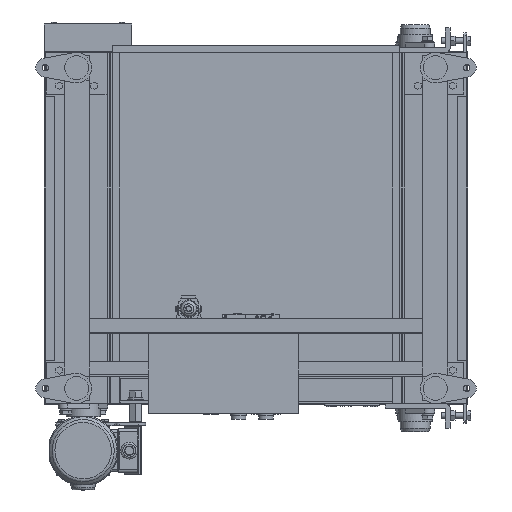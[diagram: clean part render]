
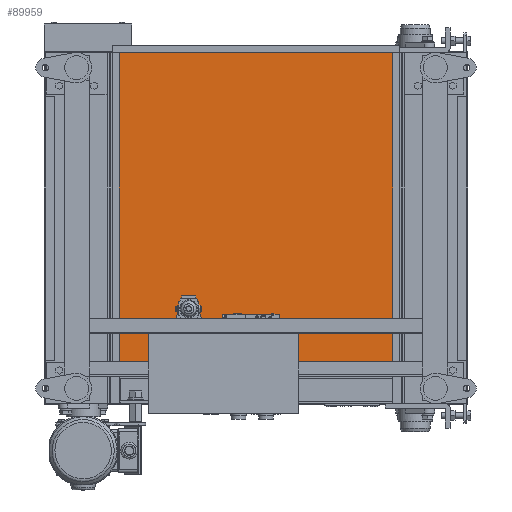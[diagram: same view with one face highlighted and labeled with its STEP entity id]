
A CAD part, front view. The second image highlights one B-rep face of the part: STEP entity #89959.
In plain terms, the highlighted planar face has unit normal (0, -1, 0).
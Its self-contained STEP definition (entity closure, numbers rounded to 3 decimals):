
#905 = ORIENTED_EDGE ( 'NONE', *, *, #8250, .F. ) ;
#4515 = ORIENTED_EDGE ( 'NONE', *, *, #47416, .F. ) ;
#4944 = DIRECTION ( 'NONE',  ( 0., 1., 0. ) ) ;
#8250 = EDGE_CURVE ( 'NONE', #40379, #92323, #38316, .T. ) ;
#9643 = AXIS2_PLACEMENT_3D ( 'NONE', #72648, #4944, #83935 ) ;
#11539 = CARTESIAN_POINT ( 'NONE',  ( 137.5, -165., -286. ) ) ;
#12869 = EDGE_CURVE ( 'NONE', #92323, #93245, #93451, .T. ) ;
#14512 = CARTESIAN_POINT ( 'NONE',  ( 712.5, -165., -286. ) ) ;
#15757 = VECTOR ( 'NONE', #93903, 1000. ) ;
#19707 = CARTESIAN_POINT ( 'NONE',  ( 712.5, -165., 353.2 ) ) ;
#25243 = FACE_OUTER_BOUND ( 'NONE', #116255, .T. ) ;
#35557 = CARTESIAN_POINT ( 'NONE',  ( 137.5, -165., -286. ) ) ;
#37958 = DIRECTION ( 'NONE',  ( 1., 0., 0. ) ) ;
#38316 = LINE ( 'NONE', #93747, #139268 ) ;
#40379 = VERTEX_POINT ( 'NONE', #117550 ) ;
#47416 = EDGE_CURVE ( 'NONE', #91928, #40379, #72806, .T. ) ;
#50779 = PLANE ( 'NONE',  #9643 ) ;
#62733 = EDGE_CURVE ( 'NONE', #93245, #91928, #65646, .T. ) ;
#65646 = LINE ( 'NONE', #11539, #72773 ) ;
#68864 = CARTESIAN_POINT ( 'NONE',  ( 712.5, -165., -286. ) ) ;
#72648 = CARTESIAN_POINT ( 'NONE',  ( 425., -165., 352. ) ) ;
#72773 = VECTOR ( 'NONE', #146449, 1000. ) ;
#72806 = LINE ( 'NONE', #100969, #118746 ) ;
#78742 = DIRECTION ( 'NONE',  ( 0., 0., 1. ) ) ;
#83935 = DIRECTION ( 'NONE',  ( 0., 0., 1. ) ) ;
#89959 = ADVANCED_FACE ( 'NONE', ( #25243 ), #50779, .F. ) ;
#91928 = VERTEX_POINT ( 'NONE', #35557 ) ;
#92323 = VERTEX_POINT ( 'NONE', #19707 ) ;
#93245 = VERTEX_POINT ( 'NONE', #68864 ) ;
#93451 = LINE ( 'NONE', #14512, #15757 ) ;
#93747 = CARTESIAN_POINT ( 'NONE',  ( 137.5, -165., 353.2 ) ) ;
#93903 = DIRECTION ( 'NONE',  ( 0., 0., -1. ) ) ;
#100969 = CARTESIAN_POINT ( 'NONE',  ( 137.5, -165., -286. ) ) ;
#108883 = ORIENTED_EDGE ( 'NONE', *, *, #12869, .F. ) ;
#110591 = ORIENTED_EDGE ( 'NONE', *, *, #62733, .F. ) ;
#116255 = EDGE_LOOP ( 'NONE', ( #4515, #110591, #108883, #905 ) ) ;
#117550 = CARTESIAN_POINT ( 'NONE',  ( 137.5, -165., 353.2 ) ) ;
#118746 = VECTOR ( 'NONE', #78742, 1000. ) ;
#139268 = VECTOR ( 'NONE', #37958, 1000. ) ;
#146449 = DIRECTION ( 'NONE',  ( -1., 0., 0. ) ) ;
